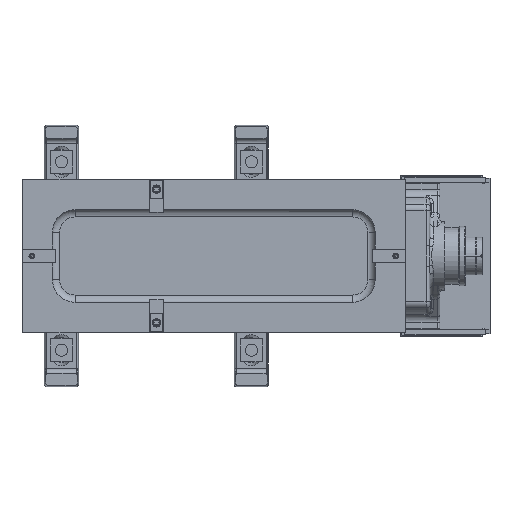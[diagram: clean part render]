
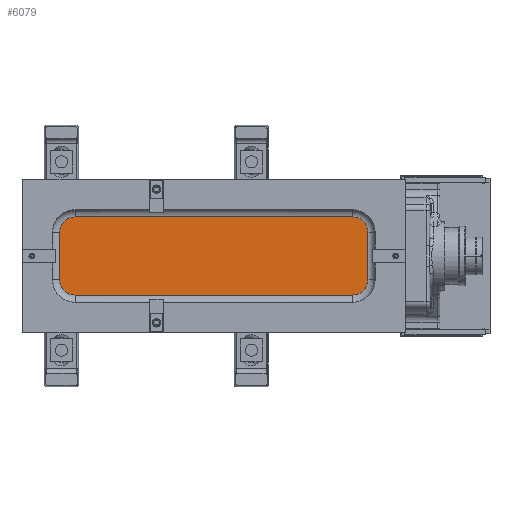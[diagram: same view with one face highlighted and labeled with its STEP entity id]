
A CAD part, front view. The second image highlights one B-rep face of the part: STEP entity #6079.
In plain terms, the highlighted planar face has unit normal (0, -1, 0).
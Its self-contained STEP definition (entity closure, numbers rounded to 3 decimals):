
#913 = VERTEX_POINT ( 'NONE', #48014 ) ;
#1508 = CARTESIAN_POINT ( 'NONE',  ( -127.461, -86., 31. ) ) ;
#1581 = CARTESIAN_POINT ( 'NONE',  ( 258., -86., -31. ) ) ;
#2032 = DIRECTION ( 'NONE',  ( 0., -1., 0. ) ) ;
#2204 = EDGE_CURVE ( 'NONE', #15454, #913, #52639, .T. ) ;
#2935 = LINE ( 'NONE', #69326, #25376 ) ;
#3161 = CARTESIAN_POINT ( 'NONE',  ( 258., -86., -51.461 ) ) ;
#4005 = VERTEX_POINT ( 'NONE', #39188 ) ;
#4283 = AXIS2_PLACEMENT_3D ( 'NONE', #63199, #63561, #58476 ) ;
#5362 = CIRCLE ( 'NONE', #35338, 20.461 ) ;
#6079 = ADVANCED_FACE ( 'NONE', ( #8673 ), #59197, .T. ) ;
#6850 = AXIS2_PLACEMENT_3D ( 'NONE', #69134, #9920, #9218 ) ;
#6954 = CIRCLE ( 'NONE', #47318, 20.461 ) ;
#7025 = CIRCLE ( 'NONE', #15043, 20.461 ) ;
#8673 = FACE_OUTER_BOUND ( 'NONE', #28194, .T. ) ;
#9218 = DIRECTION ( 'NONE',  ( 0., 0., -1. ) ) ;
#9920 = DIRECTION ( 'NONE',  ( 0., -1., 0. ) ) ;
#9927 = ORIENTED_EDGE ( 'NONE', *, *, #67352, .T. ) ;
#10384 = ORIENTED_EDGE ( 'NONE', *, *, #52555, .T. ) ;
#12331 = ORIENTED_EDGE ( 'NONE', *, *, #56743, .T. ) ;
#13218 = CARTESIAN_POINT ( 'NONE',  ( 258., -86., 31. ) ) ;
#14161 = EDGE_CURVE ( 'NONE', #64434, #15454, #5362, .T. ) ;
#14891 = DIRECTION ( 'NONE',  ( -1., 0., 0. ) ) ;
#15043 = AXIS2_PLACEMENT_3D ( 'NONE', #1581, #34053, #45271 ) ;
#15454 = VERTEX_POINT ( 'NONE', #27594 ) ;
#15695 = CARTESIAN_POINT ( 'NONE',  ( -127.461, -86., -31. ) ) ;
#16430 = VERTEX_POINT ( 'NONE', #39606 ) ;
#17183 = ORIENTED_EDGE ( 'NONE', *, *, #14161, .T. ) ;
#20679 = CIRCLE ( 'NONE', #6850, 20.461 ) ;
#21929 = EDGE_CURVE ( 'NONE', #16430, #29766, #59293, .T. ) ;
#25376 = VECTOR ( 'NONE', #58167, 1000. ) ;
#25757 = ORIENTED_EDGE ( 'NONE', *, *, #67640, .T. ) ;
#27594 = CARTESIAN_POINT ( 'NONE',  ( -107., -86., -51.461 ) ) ;
#28194 = EDGE_LOOP ( 'NONE', ( #25757, #12331, #9927, #70772, #10384, #39245, #17183, #69331 ) ) ;
#29696 = CARTESIAN_POINT ( 'NONE',  ( -107., -86., 51.461 ) ) ;
#29766 = VERTEX_POINT ( 'NONE', #29696 ) ;
#34053 = DIRECTION ( 'NONE',  ( 0., -1., 0. ) ) ;
#34490 = LINE ( 'NONE', #45348, #38318 ) ;
#35338 = AXIS2_PLACEMENT_3D ( 'NONE', #62949, #51769, #51070 ) ;
#38318 = VECTOR ( 'NONE', #39205, 1000. ) ;
#39188 = CARTESIAN_POINT ( 'NONE',  ( 278.461, -86., 31. ) ) ;
#39205 = DIRECTION ( 'NONE',  ( 0., 0., 1. ) ) ;
#39245 = ORIENTED_EDGE ( 'NONE', *, *, #53385, .T. ) ;
#39570 = DIRECTION ( 'NONE',  ( 0., 0., -1. ) ) ;
#39606 = CARTESIAN_POINT ( 'NONE',  ( 258., -86., 51.461 ) ) ;
#43025 = VECTOR ( 'NONE', #47217, 1000. ) ;
#45271 = DIRECTION ( 'NONE',  ( 0., 0., -1. ) ) ;
#45348 = CARTESIAN_POINT ( 'NONE',  ( 278.461, -86., 31. ) ) ;
#47217 = DIRECTION ( 'NONE',  ( 1., 0., 0. ) ) ;
#47318 = AXIS2_PLACEMENT_3D ( 'NONE', #13218, #2032, #39570 ) ;
#48014 = CARTESIAN_POINT ( 'NONE',  ( 258., -86., -51.461 ) ) ;
#51070 = DIRECTION ( 'NONE',  ( 0., 0., -1. ) ) ;
#51769 = DIRECTION ( 'NONE',  ( 0., -1., 0. ) ) ;
#52030 = VERTEX_POINT ( 'NONE', #1508 ) ;
#52555 = EDGE_CURVE ( 'NONE', #29766, #52030, #20679, .T. ) ;
#52639 = LINE ( 'NONE', #3161, #43025 ) ;
#53385 = EDGE_CURVE ( 'NONE', #52030, #64434, #2935, .T. ) ;
#56743 = EDGE_CURVE ( 'NONE', #58766, #4005, #34490, .T. ) ;
#58167 = DIRECTION ( 'NONE',  ( 0., 0., -1. ) ) ;
#58476 = DIRECTION ( 'NONE',  ( 0., 0., -1. ) ) ;
#58579 = CARTESIAN_POINT ( 'NONE',  ( -107., -86., 51.461 ) ) ;
#58766 = VERTEX_POINT ( 'NONE', #64811 ) ;
#59197 = PLANE ( 'NONE',  #4283 ) ;
#59293 = LINE ( 'NONE', #58579, #63995 ) ;
#62949 = CARTESIAN_POINT ( 'NONE',  ( -107., -86., -31. ) ) ;
#63199 = CARTESIAN_POINT ( 'NONE',  ( 0., -86., 0. ) ) ;
#63561 = DIRECTION ( 'NONE',  ( 0., -1., 0. ) ) ;
#63995 = VECTOR ( 'NONE', #14891, 1000. ) ;
#64434 = VERTEX_POINT ( 'NONE', #15695 ) ;
#64811 = CARTESIAN_POINT ( 'NONE',  ( 278.461, -86., -31. ) ) ;
#67352 = EDGE_CURVE ( 'NONE', #4005, #16430, #6954, .T. ) ;
#67640 = EDGE_CURVE ( 'NONE', #913, #58766, #7025, .T. ) ;
#69134 = CARTESIAN_POINT ( 'NONE',  ( -107., -86., 31. ) ) ;
#69326 = CARTESIAN_POINT ( 'NONE',  ( -127.461, -86., -31. ) ) ;
#69331 = ORIENTED_EDGE ( 'NONE', *, *, #2204, .T. ) ;
#70772 = ORIENTED_EDGE ( 'NONE', *, *, #21929, .T. ) ;
